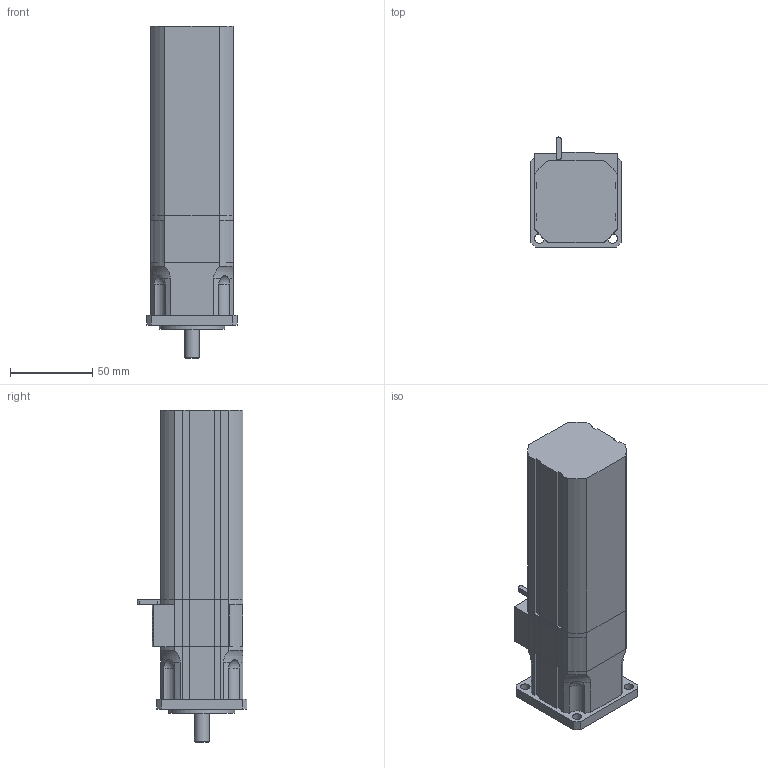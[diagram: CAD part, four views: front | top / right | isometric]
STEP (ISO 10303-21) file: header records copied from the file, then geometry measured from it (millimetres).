
FILE_DESCRIPTION(/* description */ ('Alibre Inc.'),/* implementation_level */ '2;1');
FILE_NAME(/* name */ 'export0',/* time_stamp */ '2011-03-21T10:52:17+01:00',/* author */ (''),/* organization */ (''),/* preprocessor_version */ 'ST-DEVELOPER v12',/* originating_system */ 'Alibre',/* authorisation */ '');
FILE_SCHEMA (('ALIBRE_SCHEMA','CONFIG_CONTROL_DESIGN'));
Length unit declared in the file: millimetre
Products named in the file (6): ID_1; ID_2
Bounding box: 55 x 66.86 x 202 mm (x, y, z)
Volume: 514603.4 mm3; surface area: 63793 mm2
Topology: 5 solids, 5 shells, 174 faces, 446 edges, 289 vertices
Faces by surface type: plane 90, cylinder 67, bspline 8, sphere 4, torus 4, cone 1
Full cylindrical faces by diameter (mm): 2.7 x8, 9 x1, 20 x2, 24 x2, 26 x1, 40 x1
Entity records: 17923 total; most frequent: CARTESIAN_POINT 4172, DIRECTION 2178, ORIENTED_EDGE 2116, EDGE_CURVE 1058, AXIS2_PLACEMENT_3D 871, VERTEX_POINT 717, VECTOR 651, LINE 614
